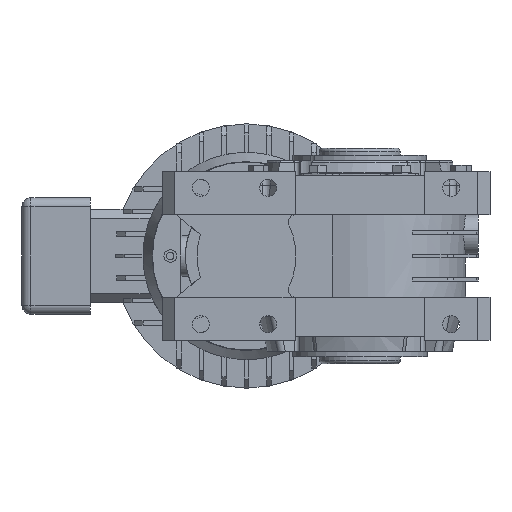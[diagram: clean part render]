
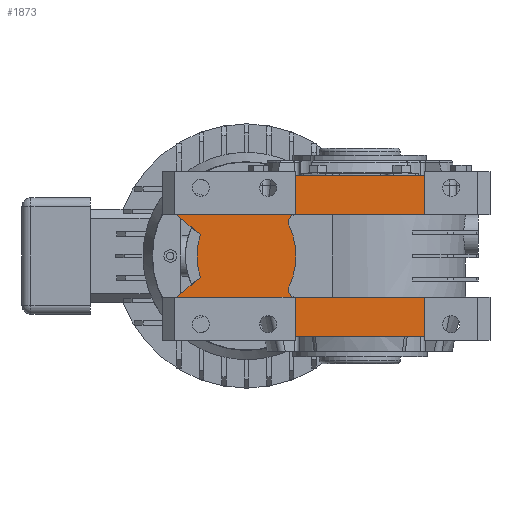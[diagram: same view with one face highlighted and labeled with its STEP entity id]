
A CAD part, left-side view. The second image highlights one B-rep face of the part: STEP entity #1873.
In plain terms, the highlighted planar face has unit normal (-1, 0, 0).
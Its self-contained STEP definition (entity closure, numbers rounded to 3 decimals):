
#1873 = ADVANCED_FACE( '', ( #5137 ), #5138, .T. );
#5137 = FACE_OUTER_BOUND( '', #10227, .T. );
#5138 = PLANE( '', #10228 );
#10227 = EDGE_LOOP( '', ( #18907, #18908, #18909, #18910, #18911, #18912, #18913, #18914, #18915, #18916, #18917, #18918, #18919, #18920, #18921, #18922, #18923, #18924 ) );
#10228 = AXIS2_PLACEMENT_3D( '', #18925, #18926, #18927 );
#18907 = ORIENTED_EDGE( '', *, *, #32549, .T. );
#18908 = ORIENTED_EDGE( '', *, *, #31729, .T. );
#18909 = ORIENTED_EDGE( '', *, *, #31972, .T. );
#18910 = ORIENTED_EDGE( '', *, *, #32550, .T. );
#18911 = ORIENTED_EDGE( '', *, *, #32551, .F. );
#18912 = ORIENTED_EDGE( '', *, *, #32552, .F. );
#18913 = ORIENTED_EDGE( '', *, *, #32553, .T. );
#18914 = ORIENTED_EDGE( '', *, *, #32554, .T. );
#18915 = ORIENTED_EDGE( '', *, *, #32555, .T. );
#18916 = ORIENTED_EDGE( '', *, *, #32229, .F. );
#18917 = ORIENTED_EDGE( '', *, *, #32556, .F. );
#18918 = ORIENTED_EDGE( '', *, *, #32557, .T. );
#18919 = ORIENTED_EDGE( '', *, *, #32558, .F. );
#18920 = ORIENTED_EDGE( '', *, *, #32559, .F. );
#18921 = ORIENTED_EDGE( '', *, *, #32560, .T. );
#18922 = ORIENTED_EDGE( '', *, *, #32561, .F. );
#18923 = ORIENTED_EDGE( '', *, *, #32562, .T. );
#18924 = ORIENTED_EDGE( '', *, *, #32563, .T. );
#18925 = CARTESIAN_POINT( '', ( -71.5, 57.1, 0. ) );
#18926 = DIRECTION( '', ( -1., 0., 0. ) );
#18927 = DIRECTION( '', ( 0., 0., -1. ) );
#31729 = EDGE_CURVE( '', #37125, #37126, #37127, .T. );
#31972 = EDGE_CURVE( '', #37126, #37564, #37565, .T. );
#32229 = EDGE_CURVE( '', #38019, #38011, #38021, .T. );
#32549 = EDGE_CURVE( '', #38573, #37125, #38574, .T. );
#32550 = EDGE_CURVE( '', #37564, #38575, #38576, .T. );
#32551 = EDGE_CURVE( '', #38577, #38575, #38578, .T. );
#32552 = EDGE_CURVE( '', #38579, #38577, #38580, .T. );
#32553 = EDGE_CURVE( '', #38579, #38581, #38582, .T. );
#32554 = EDGE_CURVE( '', #38581, #38583, #38584, .T. );
#32555 = EDGE_CURVE( '', #38583, #38011, #38585, .T. );
#32556 = EDGE_CURVE( '', #38586, #38019, #38587, .T. );
#32557 = EDGE_CURVE( '', #38586, #38588, #38589, .T. );
#32558 = EDGE_CURVE( '', #38590, #38588, #38591, .T. );
#32559 = EDGE_CURVE( '', #38592, #38590, #38593, .T. );
#32560 = EDGE_CURVE( '', #38592, #38594, #38595, .T. );
#32561 = EDGE_CURVE( '', #38596, #38594, #38597, .T. );
#32562 = EDGE_CURVE( '', #38596, #38598, #38599, .T. );
#32563 = EDGE_CURVE( '', #38598, #38573, #38600, .T. );
#37125 = VERTEX_POINT( '', #45062 );
#37126 = VERTEX_POINT( '', #45063 );
#37127 = LINE( '', #45064, #45065 );
#37564 = VERTEX_POINT( '', #45946 );
#37565 = LINE( '', #45947, #45948 );
#38011 = VERTEX_POINT( '', #46680 );
#38019 = VERTEX_POINT( '', #46692 );
#38021 = LINE( '', #46695, #46696 );
#38573 = VERTEX_POINT( '', #47565 );
#38574 = LINE( '', #47566, #47567 );
#38575 = VERTEX_POINT( '', #47568 );
#38576 = LINE( '', #47569, #47570 );
#38577 = VERTEX_POINT( '', #47571 );
#38578 = LINE( '', #47572, #47573 );
#38579 = VERTEX_POINT( '', #47574 );
#38580 = CIRCLE( '', #47575, 4. );
#38581 = VERTEX_POINT( '', #47576 );
#38582 = CIRCLE( '', #47577, 39.9 );
#38583 = VERTEX_POINT( '', #47578 );
#38584 = CIRCLE( '', #47579, 4. );
#38585 = LINE( '', #47580, #47581 );
#38586 = VERTEX_POINT( '', #47582 );
#38587 = LINE( '', #47583, #47584 );
#38588 = VERTEX_POINT( '', #47585 );
#38589 = LINE( '', #47586, #47587 );
#38590 = VERTEX_POINT( '', #47588 );
#38591 = LINE( '', #47589, #47590 );
#38592 = VERTEX_POINT( '', #47591 );
#38593 = LINE( '', #47592, #47593 );
#38594 = VERTEX_POINT( '', #47594 );
#38595 = CIRCLE( '', #47595, 39.9 );
#38596 = VERTEX_POINT( '', #47596 );
#38597 = LINE( '', #47597, #47598 );
#38598 = VERTEX_POINT( '', #47599 );
#38599 = LINE( '', #47600, #47601 );
#38600 = LINE( '', #47602, #47603 );
#45062 = CARTESIAN_POINT( '', ( -71.5, 36., -23.01 ) );
#45063 = CARTESIAN_POINT( '', ( -71.5, 36., -45. ) );
#45064 = CARTESIAN_POINT( '', ( -71.5, 36., -47. ) );
#45065 = VECTOR( '', #58789, 1000. );
#45946 = CARTESIAN_POINT( '', ( -71.5, -36., -45. ) );
#45947 = CARTESIAN_POINT( '', ( -71.5, 219.136, -45. ) );
#45948 = VECTOR( '', #59089, 1000. );
#46680 = CARTESIAN_POINT( '', ( -71.5, -36., 23. ) );
#46692 = CARTESIAN_POINT( '', ( -71.5, -36., 45. ) );
#46695 = CARTESIAN_POINT( '', ( -71.5, -36., 45. ) );
#46696 = VECTOR( '', #59434, 1000. );
#47565 = CARTESIAN_POINT( '', ( -71.5, 103.2, -23.01 ) );
#47566 = CARTESIAN_POINT( '', ( -71.5, 36., -23.01 ) );
#47567 = VECTOR( '', #59785, 1000. );
#47568 = CARTESIAN_POINT( '', ( -71.5, -36., -23. ) );
#47569 = CARTESIAN_POINT( '', ( -71.5, -36., -45. ) );
#47570 = VECTOR( '', #59786, 1000. );
#47571 = CARTESIAN_POINT( '', ( -71.5, 35.825, -23. ) );
#47572 = CARTESIAN_POINT( '', ( -71.5, 219.136, -23. ) );
#47573 = VECTOR( '', #59787, 1000. );
#47574 = CARTESIAN_POINT( '', ( -71.5, 39.431, -17.269 ) );
#47575 = AXIS2_PLACEMENT_3D( '', #59788, #59789, #59790 );
#47576 = CARTESIAN_POINT( '', ( -71.5, 39.431, 17.269 ) );
#47577 = AXIS2_PLACEMENT_3D( '', #59791, #59792, #59793 );
#47578 = CARTESIAN_POINT( '', ( -71.5, 35.825, 23. ) );
#47579 = AXIS2_PLACEMENT_3D( '', #59794, #59795, #59796 );
#47580 = CARTESIAN_POINT( '', ( -71.5, 219.136, 23. ) );
#47581 = VECTOR( '', #59797, 1000. );
#47582 = CARTESIAN_POINT( '', ( -71.5, 36., 45. ) );
#47583 = CARTESIAN_POINT( '', ( -71.5, 219.136, 45. ) );
#47584 = VECTOR( '', #59798, 1000. );
#47585 = CARTESIAN_POINT( '', ( -71.5, 36., 23. ) );
#47586 = CARTESIAN_POINT( '', ( -71.5, 36., 47. ) );
#47587 = VECTOR( '', #59799, 1000. );
#47588 = CARTESIAN_POINT( '', ( -71.5, 102., 23. ) );
#47589 = CARTESIAN_POINT( '', ( -71.5, 99., 23. ) );
#47590 = VECTOR( '', #59800, 1000. );
#47591 = CARTESIAN_POINT( '', ( -71.5, 88.702, 11.842 ) );
#47592 = CARTESIAN_POINT( '', ( -71.5, 93.653, 15.996 ) );
#47593 = VECTOR( '', #59801, 1000. );
#47594 = CARTESIAN_POINT( '', ( -71.5, 88.702, -11.842 ) );
#47595 = AXIS2_PLACEMENT_3D( '', #59802, #59803, #59804 );
#47596 = CARTESIAN_POINT( '', ( -71.5, 102., -23. ) );
#47597 = CARTESIAN_POINT( '', ( -71.5, 102., -23. ) );
#47598 = VECTOR( '', #59805, 1000. );
#47599 = CARTESIAN_POINT( '', ( -71.5, 103.2, -23. ) );
#47600 = CARTESIAN_POINT( '', ( -71.5, 36., -23. ) );
#47601 = VECTOR( '', #59806, 1000. );
#47602 = CARTESIAN_POINT( '', ( -71.5, 103.2, -23.01 ) );
#47603 = VECTOR( '', #59807, 1000. );
#58789 = DIRECTION( '', ( 0., 0., -1. ) );
#59089 = DIRECTION( '', ( 0., -1., 0. ) );
#59434 = DIRECTION( '', ( 0., 0., -1. ) );
#59785 = DIRECTION( '', ( 0., -1., 0. ) );
#59786 = DIRECTION( '', ( 0., 0., 1. ) );
#59787 = DIRECTION( '', ( 0., -1., 0. ) );
#59788 = CARTESIAN_POINT( '', ( -71.5, 35.825, -19. ) );
#59789 = DIRECTION( '', ( -1., 0., 0. ) );
#59790 = DIRECTION( '', ( 0., -1., 0. ) );
#59791 = CARTESIAN_POINT( '', ( -71.5, 75.4, 0. ) );
#59792 = DIRECTION( '', ( -1., 0., 0. ) );
#59793 = DIRECTION( '', ( 0., 1., 0. ) );
#59794 = CARTESIAN_POINT( '', ( -71.5, 35.825, 19. ) );
#59795 = DIRECTION( '', ( 1., 0., 0. ) );
#59796 = DIRECTION( '', ( 0., 1., 0. ) );
#59797 = DIRECTION( '', ( 0., -1., 0. ) );
#59798 = DIRECTION( '', ( 0., -1., 0. ) );
#59799 = DIRECTION( '', ( 0., 0., -1. ) );
#59800 = DIRECTION( '', ( 0., -1., 0. ) );
#59801 = DIRECTION( '', ( 0., 0.766, 0.643 ) );
#59802 = CARTESIAN_POINT( '', ( -71.5, 50.6, 0. ) );
#59803 = DIRECTION( '', ( -1., 0., 0. ) );
#59804 = DIRECTION( '', ( 0., -1., 0. ) );
#59805 = DIRECTION( '', ( 0., -0.766, 0.643 ) );
#59806 = DIRECTION( '', ( 0., 1., 0. ) );
#59807 = DIRECTION( '', ( 0., 0., -1. ) );
